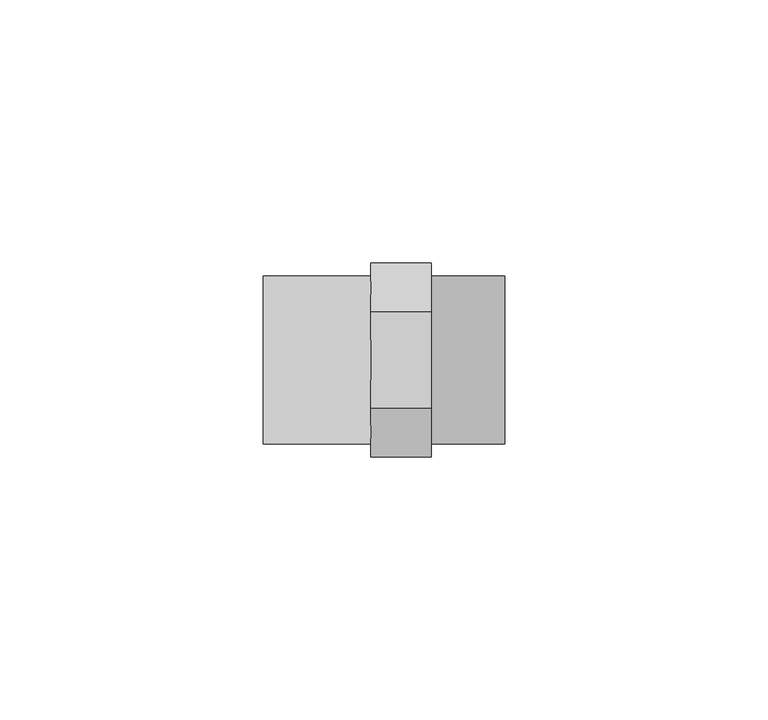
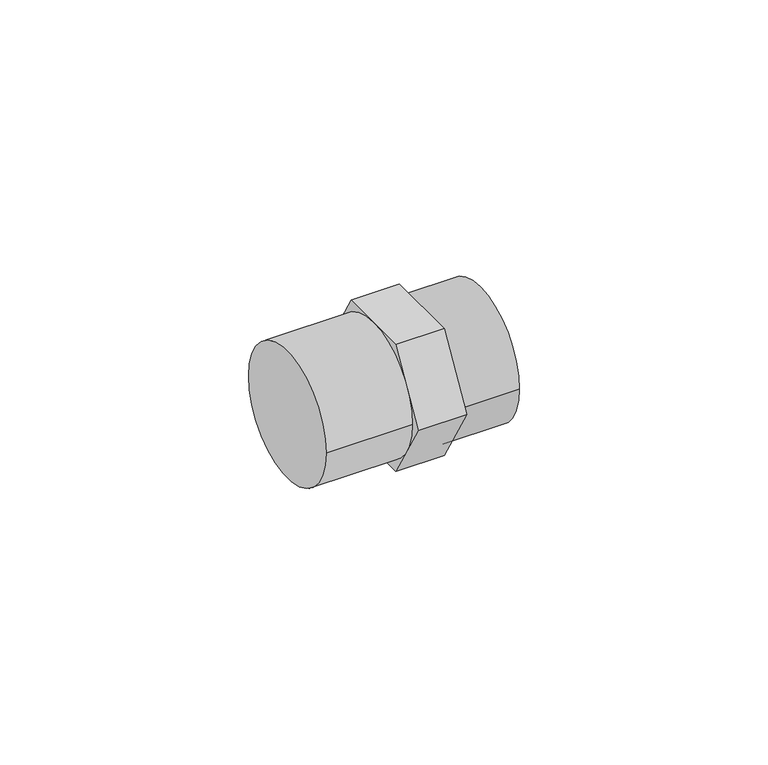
"""IFC4 building model written with IfcOpenShell, lengths in millimetres: pipe fitting geometry, 01011006 : Uniões de redução M/F."""

from ifc_helpers import new_model, si_unit, point, frame, origin, origin_2d, place, context, project, spatial, polyline, circle_curve, trimmed, segment, composite_curve, outline, extrude, source, transform, mapped, element, save


def pipe_fitting_df57b986(model_context):
    return source(origin(), model_context, "Body", "SweptSolid", [
        extrude(outline(composite_curve([segment(trimmed(circle_curve(origin_2d(), 16.0), [point((16.0, 0.0))], [point((-16.0, 0.0))], False, "CARTESIAN"), True, "CONTINUOUS"), segment(trimmed(circle_curve(origin_2d(), 16.0), [point((-16.0, 0.0))], [point((16.0, 0.0))], False, "CARTESIAN"), True, "CONTINUOUS")], self_intersect=False)), frame((0.0, 0.0, 0.0), z_axis=(1.0, 0.0, 0.0), x_axis=(0.0, 1.0, 0.0)), (0.0, 0.0, 1.0), 20.5),
        extrude(outline(polyline([(-9.2376043, 16.0), (9.2376043, 16.0), (18.4752086, 0.0), (9.2376043, -16.0), (-9.2376043, -16.0), (-18.4752086, 0.0), (-9.2376043, 16.0)])), frame((20.5, 0.0, 0.0), z_axis=(1.0, 0.0, 0.0), x_axis=(0.0, 1.0, 0.0)), (0.0, 0.0, 1.0), 11.5),
        extrude(outline(composite_curve([segment(trimmed(circle_curve(origin_2d(), 16.0), [point((-16.0, 0.0))], [point((16.0, 0.0))], False, "CARTESIAN"), True, "CONTINUOUS"), segment(trimmed(circle_curve(origin_2d(), 16.0), [point((16.0, 0.0))], [point((-16.0, 0.0))], False, "CARTESIAN"), True, "CONTINUOUS")], self_intersect=False)), frame((32.0, 0.0, 0.0), z_axis=(1.0, 0.0, 0.0), x_axis=(0.0, 1.0, 0.0)), (0.0, 0.0, 1.0), 14.0),
    ])


if __name__ == "__main__":
    model = new_model("IFC4")
    model_context = context("Model", 3, world=origin())
    ifc_project = project(units=[si_unit("LENGTHUNIT", "METRE", prefix="MILLI")], contexts=[model_context])
    site = spatial("IfcSite", under=ifc_project)
    building = spatial("IfcBuilding", under=site)
    placement = place(None, origin())
    pipe_fitting_shape = pipe_fitting_df57b986(model_context)
    element("IfcPipeFitting", 1, ObjectType="01011006 : Uniões de redução M/F", at=placement, inside=building, context=model_context, shape_type="MappedRepresentation", body=[
        mapped(pipe_fitting_shape, transform((0.0, 0.0, 0.0), x_axis=(1.0, 0.0, 0.0), y_axis=(0.0, 1.0, 0.0), z_axis=(0.0, 0.0, 1.0))),
    ])
    save(model, "model.ifc")
